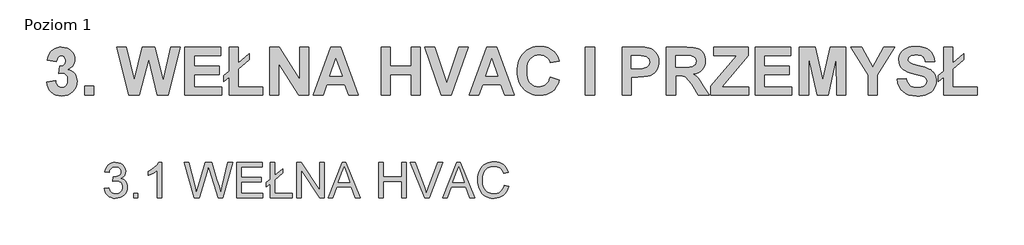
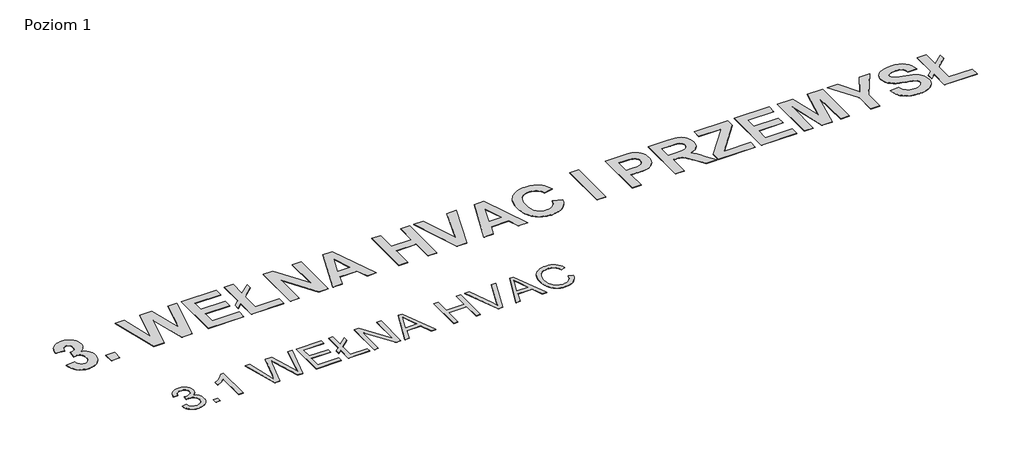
# One storey, part 3 of 9: 2 proxies.
"""IFC4 building model written with IfcOpenShell, lengths in millimetres."""

import ifcopenshell
import ifcopenshell.guid

model = None  # the IFC model being written
_history = None  # IfcOwnerHistory: only IFC2X3 demands one
_inside = {}  # id of a spatial element -> (the spatial element, [elements in it])
_under = {}  # id of a project, library or spatial element -> (it, [spatial elements below it])
_declared = {}  # id of a project -> (the project, [libraries it declares])
_typed = {}  # id of a type object -> (the type object, [elements of that type])
_made_of = {}  # id of a material, layer set ... -> (it, [elements and type objects made of it])


def new_model(schema):
    """Start an empty IFC model of exactly this schema.

    Asked for "IFC4X3", IfcOpenShell would pick the latest addendum, in which some entities
    have other attributes; the version numbers below select the first issue.
    IFC2X3 requires an IfcOwnerHistory on every rooted entity: one is made here for all.
    """
    global model, _history
    if schema == "IFC4X3":
        model = ifcopenshell.file(schema_version=(4, 3, 0, 0))
    else:
        model = ifcopenshell.file(schema=schema)
    _inside.clear()
    _under.clear()
    _declared.clear()
    _typed.clear()
    _made_of.clear()
    _history = None
    if model.schema == "IFC2X3":
        org = make("IfcOrganization", Name="unknown")
        user = make(
            "IfcPersonAndOrganization",
            ThePerson=make("IfcPerson", FamilyName="unknown"),
            TheOrganization=org,
        )
        app = make(
            "IfcApplication",
            ApplicationDeveloper=org,
            Version="unknown",
            ApplicationFullName="unknown",
            ApplicationIdentifier="unknown",
        )
        _history = make(
            "IfcOwnerHistory",
            OwningUser=user,
            OwningApplication=app,
            ChangeAction="ADDED",
            CreationDate=0,
        )
    return model


def make(cls, **values):
    """One entity of the class cls with the attributes given. An attribute that is None is left unset."""
    return model.create_entity(
        cls, **{name: value for name, value in values.items() if value is not None}
    )


def rooted(cls, **values):
    """An entity with a GlobalId (a new one), such as an element, a storey or a relation."""
    return make(cls, GlobalId=ifcopenshell.guid.new(), OwnerHistory=_history, **values)


def si_unit(unit_type, name, prefix=None):
    """IfcSIUnit, for example si_unit("LENGTHUNIT", "METRE", prefix="MILLI")."""
    return make("IfcSIUnit", UnitType=unit_type, Prefix=prefix, Name=name)


def assignment(units):
    """IfcUnitAssignment: the units of a project."""
    return None if units is None else make("IfcUnitAssignment", Units=units)


def point(xyz):
    """IfcCartesianPoint."""
    return None if xyz is None else make("IfcCartesianPoint", Coordinates=xyz)


def direction(xyz):
    """IfcDirection."""
    return None if xyz is None else make("IfcDirection", DirectionRatios=xyz)


def frame(location, z_axis=None, x_axis=None):
    """IfcAxis2Placement3D, a coordinate frame: its origin and axes. An axis left out is left unset."""
    return make(
        "IfcAxis2Placement3D",
        Location=point(location),
        Axis=direction(z_axis),
        RefDirection=direction(x_axis),
    )


def origin():
    """The frame at (0, 0, 0) with its axes left unset."""
    return frame((0.0, 0.0, 0.0))


def origin_with_axes():
    """The frame at (0, 0, 0) with the z axis (0, 0, 1) and the x axis (1, 0, 0) written out."""
    return frame((0.0, 0.0, 0.0), z_axis=(0.0, 0.0, 1.0), x_axis=(1.0, 0.0, 0.0))


def place(relative_to, where):
    """IfcLocalPlacement: puts the frame where relative to a parent placement (None: the world)."""
    return make(
        "IfcLocalPlacement", PlacementRelTo=relative_to, RelativePlacement=where
    )


def context(
    kind, dimensions, precision=None, world=None, true_north=None, identifier=None
):
    """IfcGeometricRepresentationContext, for example the 3D "Model" context."""
    return make(
        "IfcGeometricRepresentationContext",
        ContextIdentifier=identifier,
        ContextType=kind,
        CoordinateSpaceDimension=dimensions,
        Precision=precision,
        WorldCoordinateSystem=world,
        TrueNorth=true_north,
    )


def project(units=None, contexts=None):
    """IfcProject with its units and contexts."""
    return rooted(
        "IfcProject",
        Name="project",
        RepresentationContexts=contexts,
        UnitsInContext=assignment(units),
    )


def spatial(cls, under=None, at=None, **own):
    """A site, building, storey or space (cls), placed at a placement, below another one or the project."""
    s = rooted(cls, ObjectPlacement=at, **own)
    if under is not None:
        _under.setdefault(under.id(), (under, []))[1].append(s)
    return s


def polyline(points):
    """IfcPolyline through the points."""
    return make("IfcPolyline", Points=[point(p) for p in points])


def outline(outer, holes=None, kind="AREA"):
    """IfcArbitraryClosedProfileDef: a profile drawn as a closed curve; with holes, ...WithVoids."""
    if holes is None:
        return make("IfcArbitraryClosedProfileDef", ProfileType=kind, OuterCurve=outer)
    return make(
        "IfcArbitraryProfileDefWithVoids",
        ProfileType=kind,
        OuterCurve=outer,
        InnerCurves=holes,
    )


def extrude(swept, where, along, depth):
    """IfcExtrudedAreaSolid: the profile swept, set in the frame where, extruded along a direction by depth."""
    return make(
        "IfcExtrudedAreaSolid",
        SweptArea=swept,
        Position=where,
        ExtrudedDirection=direction(along),
        Depth=depth,
    )


def shape(context_of_items, identifier, shape_type, items):
    """IfcShapeRepresentation: the items that make up one representation, for example the "Body"."""
    return make(
        "IfcShapeRepresentation",
        ContextOfItems=context_of_items,
        RepresentationIdentifier=identifier,
        RepresentationType=shape_type,
        Items=items,
    )


def made_of(thing, what):
    """Note that an element or type object is made of a material, layer set ...; save() writes the relation."""
    if what is not None:
        _made_of.setdefault(what.id(), (what, []))[1].append(thing)
    return thing


def element(
    cls,
    number,
    at=None,
    inside=None,
    cuts=None,
    type_object=None,
    material=None,
    context=None,
    identifier="Body",
    shape_type=None,
    held_by="IfcProductDefinitionShape",
    body=None,
    shapes=None,
    **own,
):
    """One element of the class cls, such as IfcWall. Its Tag is "e" and its number.

    at: its placement. inside: the storey or other place that contains it. cuts: it is an
    opening in that element (IfcRelVoidsElement). A single representation is given by context,
    identifier, shape_type and body (its items); several are given by shapes. held_by: the class
    of the entity that holds the representations. save() writes the other relations.
    """
    e = rooted(cls, Tag="e%d" % number, ObjectPlacement=at, **own)
    if body is not None:
        shapes = [shape(context, identifier, shape_type, body)]
    if shapes is not None:
        e.Representation = make(held_by, Representations=shapes)
    if inside is not None:
        _inside.setdefault(inside.id(), (inside, []))[1].append(e)
    if cuts is not None:
        rooted(
            "IfcRelVoidsElement", RelatingBuildingElement=cuts, RelatedOpeningElement=e
        )
    if type_object is not None:
        _typed.setdefault(type_object.id(), (type_object, []))[1].append(e)
    return made_of(e, material)


def aggregate(whole, parts):
    """IfcRelAggregates: a whole, such as a stair, and the parts it consists of."""
    return rooted("IfcRelAggregates", RelatingObject=whole, RelatedObjects=parts)


def save(model, path):
    """Write the relations noted so far, then the file.

    IfcRelAggregates (storeys below a building ...), IfcRelContainedInSpatialStructure (elements
    in a storey), IfcRelDefinesByType, IfcRelAssociatesMaterial and IfcRelDeclares: one each for
    every whole, place, type object, material and project.
    """
    for whole, parts in _under.values():
        aggregate(whole, parts)
    for where, things in _inside.values():
        rooted(
            "IfcRelContainedInSpatialStructure",
            RelatedElements=things,
            RelatingStructure=where,
        )
    for kind, things in _typed.values():
        rooted("IfcRelDefinesByType", RelatedObjects=things, RelatingType=kind)
    for what, things in _made_of.values():
        rooted("IfcRelAssociatesMaterial", RelatedObjects=things, RelatingMaterial=what)
    for by, libraries in _declared.values():
        rooted("IfcRelDeclares", RelatingContext=by, RelatedDefinitions=libraries)
    model.write(path)


model = new_model("IFC4")

# Units and contexts
model_context = context("Model", 3, world=origin())
ifc_project = project(units=[si_unit("LENGTHUNIT", "METRE", prefix="MILLI")], contexts=[model_context])

# Site, building, storey
site = spatial("IfcSite", under=ifc_project)
building = spatial("IfcBuilding", under=site)
storey = spatial("IfcBuildingStorey", under=building, Name="Poziom 1", Elevation=0.0)

# Proxies
placement = place(None, origin())
element("IfcBuildingElementProxy", 1, Name="600 mm Arial", ObjectType="600 mm Arial", at=placement, inside=storey, context=model_context, shape_type="SweptSolid", body=[
    extrude(outline(polyline([(-15109.6367066, 16408.1027492), (-15035.7905528, 16417.3335184), (-15019.2581009, 16370.9272684), (-15008.1117667, 16353.3761867), (-14995.0453605, 16339.5931338), (-14979.7614062, 16329.1814751), (-14961.9624278, 16321.7445761), (-14941.6484254, 16317.2824367), (-14918.8193989, 16315.7950569), (-14892.0645913, 16317.8413309), (-14868.1943989, 16323.980153), (-14847.208822, 16334.2115232), (-14829.1078605, 16348.5354415), (-14814.5315384, 16365.8791915), (-14804.1198797, 16385.1700569), (-14797.8728845, 16406.4080376), (-14795.7905528, 16429.5931338), (-14797.8548557, 16451.6739631), (-14804.0477643, 16471.7626049), (-14814.3692788, 16489.8590593), (-14828.8193989, 16505.9633261), (-14846.4516105, 16519.1829775), (-14866.3193989, 16528.6255857), (-14888.4227643, 16534.2911506), (-14912.7617066, 16536.1796723), (-14936.0910336, 16534.1604415), (-14964.5405528, 16528.1027492), (-14956.3193989, 16601.948903), (-14944.4924759, 16601.0835184), (-14900.2496874, 16606.3839992), (-14860.6943989, 16622.2854415), (-14844.4143509, 16634.3106819), (-14832.7857451, 16649.1844799), (-14825.8085816, 16666.9068357), (-14823.4828605, 16687.4777492), (-14825.1685576, 16704.1769679), (-14830.2256489, 16719.370778), (-14838.6541345, 16733.0591795), (-14850.4540143, 16745.2421723), (-14864.9131489, 16755.2436747), (-14881.3193989, 16762.3876049), (-14919.9732451, 16768.1027492), (-14958.6992066, 16762.3335184), (-14975.411947, 16755.1219799), (-14990.3578605, 16745.0258261), (-15003.1673557, 16732.0450569), (-15013.4708413, 16716.1796723), (-15021.2683172, 16697.4296723), (-15026.5597836, 16675.7950569), (-15100.4059374, 16685.0258261), (-15091.6529326, 16720.2812348), (-15078.6631489, 16751.3359223), (-15061.4365864, 16778.1898886), (-15039.9732451, 16800.8431338), (-15014.9492066, 16818.8269078), (-14987.0405528, 16831.6724607), (-14956.2472836, 16839.3797924), (-14922.5693989, 16841.948903), (-14876.1451201, 16836.8827973), (-14833.5068989, 16821.6844799), (-14797.5573797, 16797.7061146), (-14771.1992066, 16766.2998646), (-14755.0273316, 16730.1159703), (-14749.6367066, 16691.8046723), (-14754.7568989, 16656.1075569), (-14770.1174759, 16623.7277492), (-14795.5020913, 16596.1436146), (-14830.6943989, 16574.8335184), (-14806.0850239, 16567.1352011), (-14784.4684374, 16556.1556338), (-14765.8446393, 16541.8948165), (-14750.2136297, 16524.3527492), (-14737.8458413, 16503.9621242), (-14729.0117066, 16481.1556338), (-14723.7112259, 16455.933278), (-14721.9443989, 16428.2950569), (-14725.4780528, 16390.8311146), (-14736.0790143, 16356.323903), (-14753.7472836, 16324.7734223), (-14778.4828605, 16296.1796723), (-14808.6180768, 16272.4537107), (-14842.4852643, 16255.5065953), (-14880.084423, 16245.3383261), (-14921.4155528, 16241.948903), (-14958.771322, 16244.8425328), (-14992.8097836, 16253.5234223), (-15023.5309374, 16267.9915713), (-15050.9347836, 16288.2469799), (-15073.912548, 16313.0997444), (-15091.3554566, 16341.3599607), (-15103.2635095, 16373.027629), (-15109.6367066, 16408.1027492)])), origin_with_axes(), (0.0, 0.0, 1.0), 5.0),
    extrude(outline(polyline([(-14620.4059374, 16251.1796723), (-14620.4059374, 16325.0258261), (-14546.5597836, 16325.0258261), (-14546.5597836, 16251.1796723), (-14620.4059374, 16251.1796723)])), origin_with_axes(), (0.0, 0.0, 1.0), 5.0),
    extrude(outline(polyline([(-14149.6367066, 16251.1796723), (-14223.4828605, 16251.1796723), (-14223.4828605, 16711.5642876), (-14254.3121874, 16686.6303934), (-14293.4347836, 16661.7325569), (-14334.5044951, 16639.9717396), (-14371.1751682, 16624.448903), (-14371.1751682, 16694.2565953), (-14313.1763701, 16725.8070761), (-14262.9299759, 16763.3431338), (-14223.3206009, 16803.2589992), (-14197.2328605, 16841.948903), (-14149.6367066, 16841.948903), (-14149.6367066, 16251.1796723)])), origin_with_axes(), (0.0, 0.0, 1.0), 5.0),
    extrude(outline(polyline([(-13610.0693989, 16251.1796723), (-13771.1751682, 16841.948903), (-13695.021322, 16841.948903), (-13601.5597836, 16453.6796723), (-13572.7136297, 16333.823903), (-13541.8482451, 16439.8335184), (-13424.7328605, 16841.948903), (-13314.9732451, 16841.948903), (-13229.8770913, 16550.4585184), (-13193.4227643, 16442.2854415), (-13166.5597836, 16333.823903), (-13138.5790143, 16450.2181338), (-13044.2520913, 16841.948903), (-12968.0982451, 16841.948903), (-13129.3482451, 16251.1796723), (-13208.2424759, 16251.1796723), (-13349.8770913, 16706.948903), (-13369.6367066, 16770.5546723), (-13391.8482451, 16693.9681338), (-13520.9347836, 16251.1796723), (-13610.0693989, 16251.1796723)])), origin_with_axes(), (0.0, 0.0, 1.0), 5.0),
    extrude(outline(polyline([(-12894.2520913, 16251.1796723), (-12894.2520913, 16841.948903), (-12469.6367066, 16841.948903), (-12469.6367066, 16768.1027492), (-12820.4059374, 16768.1027492), (-12820.4059374, 16592.7181338), (-12488.0982451, 16592.7181338), (-12488.0982451, 16518.8719799), (-12820.4059374, 16518.8719799), (-12820.4059374, 16325.0258261), (-12460.4059374, 16325.0258261), (-12460.4059374, 16251.1796723), (-12894.2520913, 16251.1796723)])), origin_with_axes(), (0.0, 0.0, 1.0), 5.0),
    extrude(outline(polyline([(-12340.4059374, 16484.9777492), (-12405.021322, 16431.1796723), (-12405.021322, 16505.0258261), (-12340.4059374, 16558.823903), (-12340.4059374, 16841.948903), (-12266.5597836, 16841.948903), (-12266.5597836, 16620.4104415), (-12128.0982451, 16735.7950569), (-12128.0982451, 16661.948903), (-12266.5597836, 16546.5642876), (-12266.5597836, 16325.0258261), (-11971.1751682, 16325.0258261), (-11971.1751682, 16251.1796723), (-12340.4059374, 16251.1796723), (-12340.4059374, 16484.9777492)])), origin_with_axes(), (0.0, 0.0, 1.0), 5.0),
    extrude(outline(polyline([(-11897.3290143, 16251.1796723), (-11897.3290143, 16841.948903), (-11818.2905528, 16841.948903), (-11509.6367066, 16373.9200569), (-11509.6367066, 16841.948903), (-11435.7905528, 16841.948903), (-11435.7905528, 16251.1796723), (-11514.8290143, 16251.1796723), (-11823.4828605, 16719.3527492), (-11823.4828605, 16251.1796723), (-11897.3290143, 16251.1796723)])), origin_with_axes(), (0.0, 0.0, 1.0), 5.0),
    extrude(outline(polyline([(-11375.3578605, 16251.1796723), (-11139.5405528, 16841.948903), (-11076.6559374, 16841.948903), (-10840.8386297, 16251.1796723), (-10918.8674759, 16251.1796723), (-10986.5117066, 16435.7950569), (-11229.8290143, 16435.7950569), (-11297.3290143, 16251.1796723), (-11375.3578605, 16251.1796723)]), holes=[polyline([(-11202.7136297, 16509.6412107), (-11013.4828605, 16509.6412107), (-11066.7040143, 16654.8815953), (-11108.0982451, 16768.1027492), (-11144.8770913, 16667.573903), (-11202.7136297, 16509.6412107)])]), origin_with_axes(), (0.0, 0.0, 1.0), 5.0),
    extrude(outline(polyline([(-10531.1751682, 16251.1796723), (-10531.1751682, 16841.948903), (-10457.3290143, 16841.948903), (-10457.3290143, 16601.948903), (-10143.4828605, 16601.948903), (-10143.4828605, 16841.948903), (-10069.6367066, 16841.948903), (-10069.6367066, 16251.1796723), (-10143.4828605, 16251.1796723), (-10143.4828605, 16528.1027492), (-10457.3290143, 16528.1027492), (-10457.3290143, 16251.1796723), (-10531.1751682, 16251.1796723)])), origin_with_axes(), (0.0, 0.0, 1.0), 5.0),
    extrude(outline(polyline([(-9765.8867066, 16251.1796723), (-10000.9828605, 16841.948903), (-9921.9443989, 16841.948903), (-9764.5886297, 16416.323903), (-9732.7136297, 16320.4104415), (-9701.271322, 16416.323903), (-9543.4828605, 16841.948903), (-9464.4443989, 16841.948903), (-9689.5886297, 16251.1796723), (-9765.8867066, 16251.1796723)])), origin_with_axes(), (0.0, 0.0, 1.0), 5.0),
    extrude(outline(polyline([(-9464.5886297, 16251.1796723), (-9228.771322, 16841.948903), (-9165.8867066, 16841.948903), (-8930.0693989, 16251.1796723), (-9008.0982451, 16251.1796723), (-9075.7424759, 16435.7950569), (-9319.0597836, 16435.7950569), (-9386.5597836, 16251.1796723), (-9464.5886297, 16251.1796723)]), holes=[polyline([(-9291.9443989, 16509.6412107), (-9102.7136297, 16509.6412107), (-9155.9347836, 16654.8815953), (-9197.3290143, 16768.1027492), (-9234.1078605, 16667.573903), (-9291.9443989, 16509.6412107)])]), origin_with_axes(), (0.0, 0.0, 1.0), 5.0),
    extrude(outline(polyline([(-8435.7905528, 16461.1796723), (-8361.9443989, 16442.1412107), (-8376.5567788, 16396.2172323), (-8396.0189182, 16356.089528), (-8420.3308172, 16321.7580977), (-8449.4924759, 16293.2229415), (-8482.8458413, 16270.7905497), (-8519.7328605, 16254.7674126), (-8560.1535336, 16245.1535304), (-8604.1078605, 16241.948903), (-8649.139411, 16244.3737828), (-8689.7629086, 16251.6484223), (-8725.9783533, 16263.7728213), (-8757.7857451, 16280.7469799), (-8785.6222836, 16302.3184944), (-8809.9251682, 16328.2349607), (-8830.6943989, 16358.496379), (-8847.9299759, 16393.1027492), (-8861.4651321, 16430.5576771), (-8871.1331009, 16469.3647684), (-8876.9338821, 16509.5240232), (-8878.8674759, 16551.0354415), (-8876.6814783, 16595.5757059), (-8870.1234855, 16637.1772684), (-8859.1934975, 16675.840129), (-8843.8915143, 16711.5642876), (-8824.560084, 16743.7592997), (-8801.5417547, 16771.8347203), (-8774.8365263, 16795.7905497), (-8744.4443989, 16815.6267876), (-8711.3975239, 16831.1811747), (-8676.7280528, 16842.2914511), (-8640.4359855, 16848.957617), (-8602.521322, 16851.1796723), (-8560.2842427, 16848.3040713), (-8521.5537739, 16839.6772684), (-8486.3299158, 16825.2992636), (-8454.6126682, 16805.1700569), (-8426.9248677, 16779.8214992), (-8403.7893509, 16749.7854415), (-8385.2061177, 16715.0618838), (-8371.1751682, 16675.6508261), (-8445.021322, 16658.0546723), (-8456.6499278, 16687.0946362), (-8470.6222836, 16711.9068357), (-8486.9383893, 16732.4912708), (-8505.5982451, 16748.8479415), (-8526.7100239, 16761.3103814), (-8550.3818989, 16770.2121242), (-8576.6138701, 16775.5531698), (-8605.4059374, 16777.3335184), (-8638.5339422, 16775.3593598), (-8668.8314182, 16769.4368838), (-8696.2983653, 16759.5660905), (-8720.9347836, 16745.7469799), (-8742.4296754, 16728.6015473), (-8760.4720432, 16708.7517876), (-8775.0618869, 16686.1977011), (-8786.1992066, 16660.9392876), (-8800.3157932, 16606.8888069), (-8805.021322, 16551.1796723), (-8799.4504086, 16482.9585184), (-8792.4867667, 16452.3094799), (-8782.7376682, 16423.9681338), (-8770.0453605, 16398.4978814), (-8754.2520913, 16376.4621242), (-8735.3578605, 16357.8608622), (-8713.3626682, 16342.6940953), (-8689.3347235, 16330.925766), (-8664.3422355, 16322.5198165), (-8638.3852042, 16317.4762468), (-8611.4636297, 16315.7950569), (-8579.3587619, 16318.0847203), (-8549.8230047, 16324.9537107), (-8522.8563581, 16336.402028), (-8498.458822, 16352.4296723), (-8477.2073196, 16372.964528), (-8459.6787739, 16397.9344799), (-8445.873185, 16427.339528), (-8435.7905528, 16461.1796723)])), origin_with_axes(), (0.0, 0.0, 1.0), 5.0),
])
element("IfcBuildingElementProxy", 2, Name="800", ObjectType="800", at=placement, inside=storey, context=model_context, shape_type="SweptSolid", body=[
    extrude(outline(polyline([(-16071.0553841, 18188.3091898), (-15918.0553841, 18206.0396585), (-15913.5107064, 18179.7925882), (-15906.2516732, 18156.8326273), (-15896.2782845, 18137.1597757), (-15883.5905404, 18120.7740335), (-15868.8109993, 18107.8746195), (-15852.56222, 18098.6607523), (-15834.8442025, 18093.132432), (-15815.6569466, 18091.2896585), (-15795.0004525, 18093.4001322), (-15776.06222, 18099.7315531), (-15758.8422493, 18110.2839212), (-15743.3405404, 18125.0572367), (-15730.5282845, 18143.4040384), (-15721.3766732, 18164.6768656), (-15715.8857064, 18188.8757181), (-15714.0553841, 18216.000596), (-15715.7300667, 18241.6873636), (-15720.7541146, 18264.5601664), (-15729.1275277, 18284.6190042), (-15740.850306, 18301.8638773), (-15754.9886116, 18315.7220316), (-15770.6086068, 18325.6207132), (-15787.7102913, 18331.5599222), (-15806.2936654, 18333.5396585), (-15834.234095, 18330.7007914), (-15867.0553841, 18322.1841898), (-15853.7077279, 18448.2896585), (-15830.4676156, 18449.2608499), (-15810.1535286, 18453.7681742), (-15792.7654671, 18461.8116312), (-15778.303431, 18473.391221), (-15766.9292855, 18487.8345804), (-15758.8048958, 18504.469346), (-15753.930262, 18523.2955179), (-15752.3053841, 18544.313096), (-15757.1613411, 18578.1553812), (-15771.7292122, 18604.3775492), (-15782.2442269, 18614.182847), (-15794.3654427, 18621.1866312), (-15823.4264779, 18626.7896585), (-15838.7849984, 18625.1647806), (-15852.9855599, 18620.2901468), (-15866.0281624, 18612.1657572), (-15877.912806, 18600.7916117), (-15888.1040902, 18586.292222), (-15896.0666146, 18568.7920999), (-15905.3053841, 18524.7896585), (-16058.3053841, 18547.6998148), (-16040.7990365, 18616.1563578), (-16029.3750863, 18644.6508646), (-16016.1706185, 18669.3228617), (-16000.6813607, 18690.8696146), (-15982.4030404, 18709.988389), (-15961.3356575, 18726.6791849), (-15937.4792122, 18740.9420023), (-15911.4749398, 18752.3597269), (-15883.9640755, 18760.5152445), (-15854.9466195, 18765.408555), (-15824.4225716, 18767.0396585), (-15773.4972786, 18762.5198832), (-15727.9010872, 18748.960557), (-15687.6339974, 18726.36168), (-15652.6960091, 18694.7232523), (-15629.3376107, 18664.1680765), (-15612.6530404, 18631.6705179), (-15602.6422982, 18597.2305765), (-15599.3053841, 18560.8482523), (-15601.0952401, 18535.0712137), (-15606.4648079, 18510.6326761), (-15615.4140877, 18487.5326395), (-15627.9430794, 18465.7711039), (-15644.051783, 18445.3480692), (-15663.7401986, 18426.2635355), (-15713.8561654, 18392.109971), (-15680.8356575, 18382.4789896), (-15651.3014779, 18368.3282328), (-15625.2536263, 18349.6577005), (-15602.6921029, 18326.4673929), (-15584.4760384, 18299.6786966), (-15571.4645638, 18270.2129984), (-15563.657679, 18238.0702982), (-15561.0553841, 18203.250596), (-15565.6685433, 18152.8793802), (-15579.5080208, 18106.3555765), (-15602.5738167, 18063.6791849), (-15634.865931, 18024.8502054), (-15674.0310921, 17992.5580912), (-15717.7160286, 17969.4922953), (-15765.9207406, 17955.6528177), (-15818.6452279, 17951.0396585), (-15868.5183968, 17955.1423197), (-15913.9464974, 17967.4503031), (-15954.9295296, 17987.9636087), (-15991.4674935, 18016.6822367), (-16022.1783089, 18052.024888), (-16045.6798958, 18092.410264), (-16061.9722542, 18137.8383646), (-16071.0553841, 18188.3091898)])), origin_with_axes(), (0.0, 0.0, 1.0), 5.0),
    extrude(outline(polyline([(-15433.5553841, 17963.7896585), (-15433.5553841, 18116.7896585), (-15280.5553841, 18116.7896585), (-15280.5553841, 17963.7896585), (-15433.5553841, 17963.7896585)])), origin_with_axes(), (0.0, 0.0, 1.0), 5.0),
    extrude(outline(polyline([(-14695.8483529, 17963.7896585), (-14898.0553841, 18767.0396585), (-14741.0710091, 18767.0396585), (-14611.1803841, 18215.203721), (-14471.5280404, 18767.0396585), (-14265.7350716, 18767.0396585), (-14126.6803841, 18206.0396585), (-13996.7897591, 18767.0396585), (-13839.8053841, 18767.0396585), (-14039.0241341, 17963.7896585), (-14220.1139779, 17963.7896585), (-14368.9303841, 18564.234971), (-14520.7350716, 17963.7896585), (-14695.8483529, 17963.7896585)])), origin_with_axes(), (0.0, 0.0, 1.0), 5.0),
    extrude(outline(polyline([(-13763.3053841, 17963.7896585), (-13763.3053841, 18767.0396585), (-13164.0553841, 18767.0396585), (-13164.0553841, 18626.7896585), (-13610.3053841, 18626.7896585), (-13610.3053841, 18448.2896585), (-13189.5553841, 18448.2896585), (-13189.5553841, 18308.0396585), (-13610.3053841, 18308.0396585), (-13610.3053841, 18104.0396585), (-13151.3053841, 18104.0396585), (-13151.3053841, 17963.7896585), (-13763.3053841, 17963.7896585)])), origin_with_axes(), (0.0, 0.0, 1.0), 5.0),
    extrude(outline(polyline([(-13023.8053841, 18367.406846), (-13023.8053841, 18767.0396585), (-12870.8053841, 18767.0396585), (-12870.8053841, 18501.8795023), (-12692.3053841, 18658.6646585), (-12692.3053841, 18561.047471), (-12870.8053841, 18404.2623148), (-12870.8053841, 18104.0396585), (-12462.8053841, 18104.0396585), (-12462.8053841, 17963.7896585), (-13023.8053841, 17963.7896585), (-13023.8053841, 18269.7896585), (-13113.0553841, 18191.297471), (-13113.0553841, 18288.9146585), (-13023.8053841, 18367.406846)])), origin_with_axes(), (0.0, 0.0, 1.0), 5.0),
    extrude(outline(polyline([(-12348.0553841, 17963.7896585), (-12348.0553841, 18767.0396585), (-12187.6842904, 18767.0396585), (-11850.8053841, 18226.359971), (-11850.8053841, 18767.0396585), (-11697.8053841, 18767.0396585), (-11697.8053841, 17963.7896585), (-11863.1569466, 17963.7896585), (-12195.0553841, 18496.500596), (-12195.0553841, 17963.7896585), (-12348.0553841, 17963.7896585)])), origin_with_axes(), (0.0, 0.0, 1.0), 5.0),
    extrude(outline(polyline([(-10869.0553841, 17963.7896585), (-11029.8249154, 17963.7896585), (-11092.7780404, 18142.2896585), (-11396.1881966, 18142.2896585), (-11458.3444466, 17963.7896585), (-11621.3053841, 17963.7896585), (-11328.0553841, 18767.0396585), (-11165.0944466, 18767.0396585), (-10869.0553841, 17963.7896585)]), holes=[polyline([(-11141.7858529, 18282.5396585), (-11245.1803841, 18575.7896585), (-11347.1803841, 18282.5396585), (-11141.7858529, 18282.5396585)])]), origin_with_axes(), (0.0, 0.0, 1.0), 5.0),
    extrude(outline(polyline([(-10486.5553841, 17963.7896585), (-10486.5553841, 18767.0396585), (-10333.5553841, 18767.0396585), (-10333.5553841, 18448.2896585), (-9989.3053841, 18448.2896585), (-9989.3053841, 18767.0396585), (-9836.3053841, 18767.0396585), (-9836.3053841, 17963.7896585), (-9989.3053841, 17963.7896585), (-9989.3053841, 18308.0396585), (-10333.5553841, 18308.0396585), (-10333.5553841, 17963.7896585), (-10486.5553841, 17963.7896585)])), origin_with_axes(), (0.0, 0.0, 1.0), 5.0),
    extrude(outline(polyline([(-9489.0671029, 17963.7896585), (-9759.8053841, 18767.0396585), (-9598.4381966, 18767.0396585), (-9396.4303841, 18167.7896585), (-9193.8249154, 18767.0396585), (-9033.0553841, 18767.0396585), (-9318.1374154, 17963.7896585), (-9489.0671029, 17963.7896585)])), origin_with_axes(), (0.0, 0.0, 1.0), 5.0),
    extrude(outline(polyline([(-8268.0553841, 17963.7896585), (-8428.8249154, 17963.7896585), (-8491.7780404, 18142.2896585), (-8795.1881966, 18142.2896585), (-8857.3444466, 17963.7896585), (-9020.3053841, 17963.7896585), (-8727.0553841, 18767.0396585), (-8564.0944466, 18767.0396585), (-8268.0553841, 17963.7896585)]), holes=[polyline([(-8540.7858529, 18282.5396585), (-8644.1803841, 18575.7896585), (-8746.1803841, 18282.5396585), (-8540.7858529, 18282.5396585)])]), origin_with_axes(), (0.0, 0.0, 1.0), 5.0),
    extrude(outline(polyline([(-7668.8053841, 18269.7896585), (-7515.8053841, 18218.7896585), (-7536.9350228, 18158.29564), (-7564.0661263, 18106.1065531), (-7597.1986947, 18062.2223978), (-7636.3327279, 18026.6431742), (-7681.3063607, 17999.1447611), (-7731.9577279, 17979.5030374), (-7788.2868294, 17967.7180033), (-7850.2936654, 17963.7896585), (-7889.4930672, 17965.467454), (-7926.9057259, 17970.5008402), (-7962.5316414, 17978.8898172), (-7996.3708138, 17990.6343851), (-8028.423243, 18005.7345438), (-8058.688929, 18024.1902933), (-8087.1678719, 18046.0016336), (-8113.8600716, 18071.1685648), (-8138.046473, 18099.2459574), (-8159.0080208, 18129.788682), (-8176.7447152, 18162.7967386), (-8191.256556, 18198.2701273), (-8202.5435433, 18236.208848), (-8210.6056771, 18276.6129007), (-8215.4429574, 18319.4822855), (-8217.0553841, 18364.8170023), (-8215.4289498, 18412.6979837), (-8210.5496468, 18457.8272562), (-8202.4174752, 18500.2048197), (-8191.0324349, 18539.8306742), (-8176.394526, 18576.7048197), (-8158.5037484, 18610.8272562), (-8137.3601021, 18642.1979837), (-8112.9635872, 18670.8170023), (-8085.9149727, 18696.3574686), (-8056.8150277, 18718.4925394), (-8025.663752, 18737.2222147), (-7992.4611458, 18752.5464945), (-7957.2072091, 18764.4653788), (-7919.9019417, 18772.9788675), (-7880.5453438, 18778.0869608), (-7839.1374154, 18779.7896585), (-7768.5143685, 18774.17418), (-7704.8639779, 18757.3277445), (-7675.6535286, 18744.6929178), (-7648.1862435, 18729.2503519), (-7622.4621224, 18711.0000467), (-7598.4811654, 18689.9420023), (-7572.6200814, 18660.5447855), (-7550.2204232, 18625.3453226), (-7531.2821907, 18584.3436136), (-7515.8053841, 18537.5396585), (-7668.8053841, 18512.0396585), (-7678.4488167, 18540.0610208), (-7692.2384896, 18564.957139), (-7710.1744027, 18586.728013), (-7732.256556, 18605.3736429), (-7757.7129769, 18620.3212748), (-7785.7716927, 18630.9981546), (-7816.4327034, 18637.4042826), (-7849.6960091, 18639.5396585), (-7895.1614632, 18635.6611185), (-7936.1320443, 18624.0254984), (-7972.6077523, 18604.6327982), (-8004.5885872, 18577.4830179), (-8030.6053109, 18541.6547708), (-8049.1886849, 18496.2266703), (-8060.3387093, 18441.1987162), (-8064.0553841, 18376.5709085), (-8060.4507699, 18308.1641703), (-8049.6369271, 18250.3658304), (-8031.6138558, 18203.175889), (-8006.381556, 18166.594346), (-7975.3719124, 18139.2266703), (-7940.0168099, 18119.6783304), (-7900.3162484, 18107.9493265), (-7856.2702279, 18104.0396585), (-7823.4800667, 18106.5361185), (-7793.0431771, 18114.0254984), (-7764.9595589, 18126.5077982), (-7739.2292122, 18143.9830179), (-7716.4124398, 18166.8246927), (-7697.0695443, 18195.4063578), (-7681.2005257, 18229.728013), (-7668.8053841, 18269.7896585)])), origin_with_axes(), (0.0, 0.0, 1.0), 5.0),
    extrude(outline(polyline([(-7082.3053841, 17963.7896585), (-7082.3053841, 18767.0396585), (-6929.3053841, 18767.0396585), (-6929.3053841, 17963.7896585), (-7082.3053841, 17963.7896585)])), origin_with_axes(), (0.0, 0.0, 1.0), 5.0),
    extrude(outline(polyline([(-6470.3053841, 17963.7896585), (-6470.3053841, 18767.0396585), (-6211.5202279, 18767.0396585), (-6089.9469857, 18764.0513773), (-6019.6725716, 18755.0865335), (-5986.7080941, 18743.4758158), (-5956.5451302, 18726.5733499), (-5929.18368, 18704.3791361), (-5904.6237435, 18676.8931742), (-5884.3594613, 18644.5761576), (-5869.884974, 18607.8887796), (-5861.2002816, 18566.8310404), (-5858.3053841, 18521.4029398), (-5860.0049691, 18486.1100931), (-5865.103724, 18453.7432718), (-5873.6016488, 18424.3024759), (-5885.4987435, 18397.7877054), (-5916.3776497, 18353.063096), (-5934.581263, 18334.734971), (-5954.6276497, 18319.0962992), (-5996.8869271, 18295.3145609), (-6039.7936654, 18281.1451273), (-6111.7614388, 18272.6285257), (-6210.1256966, 18269.7896585), (-6317.3053841, 18269.7896585), (-6317.3053841, 17963.7896585), (-6470.3053841, 17963.7896585)]), holes=[polyline([(-6317.3053841, 18626.7896585), (-6317.3053841, 18410.0396585), (-6222.2780404, 18410.0396585), (-6136.6886849, 18413.0279398), (-6085.115931, 18421.9927835), (-6054.2868294, 18437.3575296), (-6030.928431, 18459.5455179), (-6016.2111458, 18487.2120218), (-6011.3053841, 18519.0123148), (-6013.0298714, 18538.9217386), (-6018.2033333, 18557.0132914), (-6026.8257699, 18573.286973), (-6038.897181, 18587.7427835), (-6070.0998177, 18609.7564554), (-6108.5241341, 18621.609971), (-6155.2907357, 18625.4947367), (-6233.4342904, 18626.7896585), (-6317.3053841, 18626.7896585)])]), origin_with_axes(), (0.0, 0.0, 1.0), 5.0),
    extrude(outline(polyline([(-5730.8053841, 17963.7896585), (-5730.8053841, 18767.0396585), (-5392.9303841, 18767.0396585), (-5282.8620247, 18761.6109476), (-5240.9015755, 18754.8250589), (-5207.6569466, 18745.3248148), (-5180.2145638, 18732.3506937), (-5155.6608529, 18715.1431742), (-5133.9958138, 18693.7022562), (-5115.2194466, 18668.0279398), (-5100.0539193, 18639.2283792), (-5089.2213997, 18608.4117289), (-5082.721888, 18575.5779886), (-5080.5553841, 18540.7271585), (-5083.6868538, 18497.2850199), (-5093.081263, 18457.8023539), (-5108.7386116, 18422.2791605), (-5130.6588997, 18390.7154398), (-5158.8172249, 18363.8707132), (-5193.1886849, 18342.5045023), (-5233.7732796, 18326.616807), (-5280.5710091, 18316.2076273), (-5236.1950325, 18284.2330179), (-5200.2858529, 18249.2701273), (-5163.131556, 18198.6187601), (-5115.0202279, 18119.578721), (-5016.8053841, 17963.7896585), (-5195.5046029, 17963.7896585), (-5311.8483529, 18147.2701273), (-5368.0529427, 18217.7188578), (-5403.1901497, 18256.1431742), (-5428.5407357, 18275.0440531), (-5455.3854622, 18286.922471), (-5491.0207161, 18293.1978617), (-5542.7428841, 18295.2896585), (-5577.8053841, 18295.2896585), (-5577.8053841, 17963.7896585), (-5730.8053841, 17963.7896585)]), holes=[polyline([(-5577.8053841, 18435.5396585), (-5451.6999154, 18435.5396585), (-5352.1652474, 18437.8555765), (-5298.600306, 18444.8033304), (-5271.3571419, 18457.4039164), (-5250.787806, 18476.6783304), (-5237.8634896, 18502.1036234), (-5233.5553841, 18533.156846), (-5239.2331185, 18567.5469828), (-5246.3302865, 18581.9965677), (-5256.2663216, 18594.6158304), (-5283.6588997, 18613.7159281), (-5320.4147591, 18624.1998148), (-5444.7272591, 18626.7896585), (-5577.8053841, 18626.7896585), (-5577.8053841, 18435.5396585)])]), origin_with_axes(), (0.0, 0.0, 1.0), 5.0),
    extrude(outline(polyline([(-4991.3053841, 17963.7896585), (-4991.3053841, 18116.7896585), (-4560.7936654, 18626.7896585), (-4940.3053841, 18626.7896585), (-4940.3053841, 18767.0396585), (-4366.5553841, 18767.0396585), (-4366.5553841, 18626.7896585), (-4807.8249154, 18104.0396585), (-4353.8053841, 18104.0396585), (-4353.8053841, 17963.7896585), (-4991.3053841, 17963.7896585)])), origin_with_axes(), (0.0, 0.0, 1.0), 5.0),
    extrude(outline(polyline([(-4251.8053841, 17963.7896585), (-4251.8053841, 18767.0396585), (-3652.5553841, 18767.0396585), (-3652.5553841, 18626.7896585), (-4098.8053841, 18626.7896585), (-4098.8053841, 18448.2896585), (-3678.0553841, 18448.2896585), (-3678.0553841, 18308.0396585), (-4098.8053841, 18308.0396585), (-4098.8053841, 18104.0396585), (-3639.8053841, 18104.0396585), (-3639.8053841, 17963.7896585), (-4251.8053841, 17963.7896585)])), origin_with_axes(), (0.0, 0.0, 1.0), 5.0),
    extrude(outline(polyline([(-3512.3053841, 17963.7896585), (-3512.3053841, 18767.0396585), (-3250.1335091, 18767.0396585), (-3123.4303841, 18219.188096), (-2996.7272591, 18767.0396585), (-2734.5553841, 18767.0396585), (-2734.5553841, 17963.7896585), (-2887.5553841, 17963.7896585), (-2893.9303841, 18596.109971), (-3033.7819466, 17963.7896585), (-3212.8796029, 17963.7896585), (-3352.9303841, 18596.109971), (-3359.3053841, 17963.7896585), (-3512.3053841, 17963.7896585)])), origin_with_axes(), (0.0, 0.0, 1.0), 5.0),
    extrude(outline(polyline([(-2364.8053841, 17963.7896585), (-2364.8053841, 18301.8638773), (-2651.6803841, 18767.0396585), (-2474.3756966, 18767.0396585), (-2288.7038216, 18436.9341898), (-2102.2350716, 18767.0396585), (-1924.9303841, 18767.0396585), (-2211.8053841, 18300.6685648), (-2211.8053841, 17963.7896585), (-2364.8053841, 17963.7896585)])), origin_with_axes(), (0.0, 0.0, 1.0), 5.0),
    extrude(outline(polyline([(-1880.3053841, 18231.5396585), (-1727.3053841, 18244.2896585), (-1718.0417122, 18207.4590921), (-1704.9928841, 18175.8580179), (-1688.1588997, 18149.4864359), (-1667.5397591, 18128.344346), (-1643.0732064, 18112.1329203), (-1614.6969857, 18100.5533304), (-1582.411097, 18093.6055765), (-1546.2155404, 18091.2896585), (-1508.1772103, 18093.3378763), (-1475.1442513, 18099.4825296), (-1447.1166634, 18109.7236185), (-1424.0944466, 18124.0611429), (-1406.1398568, 18141.1379251), (-1393.3151497, 18159.5967874), (-1385.6203255, 18179.4377298), (-1383.0553841, 18200.6607523), (-1387.3136849, 18226.6837015), (-1400.0885872, 18248.5728617), (-1423.5216927, 18267.0753031), (-1459.7546029, 18282.938096), (-1592.4342904, 18317.0045023), (-1654.0177865, 18333.6268167), (-1705.6901497, 18352.2164164), (-1747.4513802, 18372.7733011), (-1779.3014779, 18395.297471), (-1812.3344368, 18430.1732035), (-1835.9294075, 18468.6597757), (-1850.08639, 18510.7571878), (-1854.8053841, 18556.4654398), (-1852.6388802, 18586.547471), (-1846.1393685, 18615.6334085), (-1835.306849, 18643.7232523), (-1820.1413216, 18670.8170023), (-1800.8918099, 18695.8314066), (-1777.8073372, 18717.6832132), (-1750.8879036, 18736.3724222), (-1720.1335091, 18751.8990335), (-1685.7807259, 18764.101182), (-1648.0661263, 18772.8170023), (-1606.9897103, 18778.0464945), (-1562.5514779, 18779.7896585), (-1491.8101449, 18775.4441996), (-1430.3947396, 18762.4078226), (-1378.305262, 18740.6805277), (-1335.5417122, 18710.2623148), (-1301.9671273, 18672.5975199), (-1277.4445443, 18629.1304789), (-1261.9739632, 18579.8611917), (-1255.5553841, 18524.7896585), (-1408.5553841, 18524.7896585), (-1415.4720101, 18553.2219095), (-1425.4640755, 18577.3585062), (-1438.5315804, 18597.1994486), (-1454.6745247, 18612.7447367), (-1474.5652718, 18624.467515), (-1498.8761849, 18632.8409281), (-1527.607264, 18637.8649759), (-1560.7585091, 18639.5396585), (-1595.3229622, 18637.759141), (-1625.9030404, 18632.4175882), (-1652.4987435, 18623.5150003), (-1675.1100716, 18611.0513773), (-1686.7892708, 18601.1153421), (-1695.131556, 18589.6353617), (-1700.1369271, 18576.6114359), (-1701.8053841, 18562.0435648), (-1700.2863411, 18548.509141), (-1695.7292122, 18535.9957132), (-1677.5006966, 18514.031846), (-1656.5515999, 18501.2756205), (-1624.5832161, 18488.3077249), (-1527.5885872, 18461.7369242), (-1424.0695443, 18434.0953226), (-1383.9456429, 18419.7889261), (-1351.5788216, 18405.1587992), (-1324.6344857, 18389.0034037), (-1300.7780404, 18370.1212015), (-1280.0094857, 18348.5121927), (-1262.3288216, 18324.1763773), (-1248.2091927, 18296.9705667), (-1238.1237435, 18266.7515726), (-1232.072474, 18233.5193949), (-1230.0553841, 18197.2740335), (-1232.4397835, 18163.5562601), (-1239.5929818, 18130.9341898), (-1251.5149788, 18099.4078226), (-1268.2057747, 18068.9771585), (-1289.2607064, 18041.0118265), (-1314.2751107, 18016.8814554), (-1343.2489876, 17996.5860453), (-1376.1823372, 17980.125596), (-1413.2432503, 17967.4004984), (-1454.5998177, 17958.3111429), (-1500.2520394, 17952.8575296), (-1550.1999154, 17951.0396585), (-1621.6945443, 17955.5158548), (-1684.3737435, 17968.9444437), (-1738.237513, 17991.3254251), (-1783.2858529, 18022.6587992), (-1819.8300423, 18062.5710306), (-1848.1813607, 18110.6885843), (-1868.3398079, 18167.0114603), (-1880.3053841, 18231.5396585)])), origin_with_axes(), (0.0, 0.0, 1.0), 5.0),
    extrude(outline(polyline([(-1102.5553841, 18367.406846), (-1102.5553841, 18767.0396585), (-949.5553841, 18767.0396585), (-949.5553841, 18501.8795023), (-771.0553841, 18658.6646585), (-771.0553841, 18561.047471), (-949.5553841, 18404.2623148), (-949.5553841, 18104.0396585), (-541.5553841, 18104.0396585), (-541.5553841, 17963.7896585), (-1102.5553841, 17963.7896585), (-1102.5553841, 18269.7896585), (-1191.8053841, 18191.297471), (-1191.8053841, 18288.9146585), (-1102.5553841, 18367.406846)])), origin_with_axes(), (0.0, 0.0, 1.0), 5.0),
])

save(model, "model.ifc")
